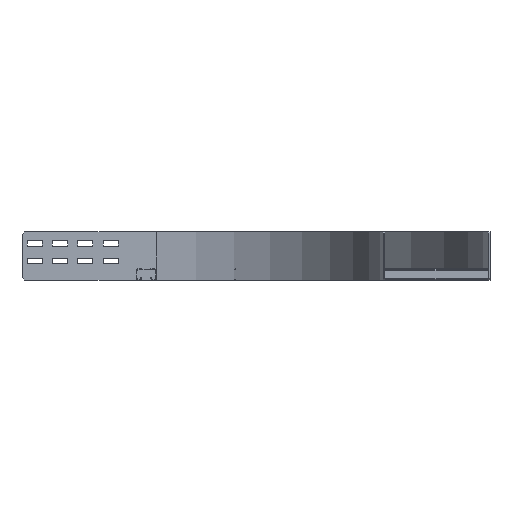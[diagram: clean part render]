
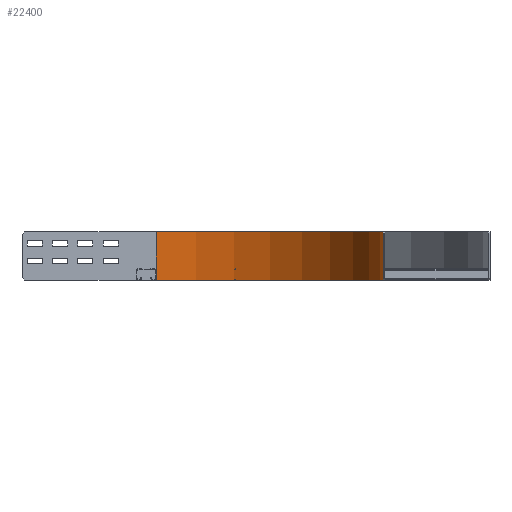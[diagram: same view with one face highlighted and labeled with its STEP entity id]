
A CAD part, front view. The second image highlights one B-rep face of the part: STEP entity #22400.
In plain terms, the highlighted cylindrical face has radius 447 mm (diameter 894 mm), a partial arc.
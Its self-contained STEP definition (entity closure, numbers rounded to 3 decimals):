
#450=CARTESIAN_POINT('',(447.,-450.,-50.));
#460=VERTEX_POINT('',#450);
#490=CARTESIAN_POINT('',(0.,-450.,-50.));
#500=DIRECTION('',(0.,0.,1.));
#510=DIRECTION('',(1.,0.,0.));
#520=AXIS2_PLACEMENT_3D('',#490,#500,#510);
#530=CIRCLE('',#520,447.);
#540=CARTESIAN_POINT('',(0.,-3.,-50.));
#550=VERTEX_POINT('',#540);
#560=EDGE_CURVE('',#460,#550,#530,.T.);
#3960=CARTESIAN_POINT('',(0.,-3.,-145.));
#3970=VERTEX_POINT('',#3960);
#4000=CARTESIAN_POINT('',(0.,-450.,-145.));
#4010=DIRECTION('',(0.,0.,1.));
#4020=DIRECTION('',(1.,0.,0.));
#4030=AXIS2_PLACEMENT_3D('',#4000,#4010,#4020);
#4040=CIRCLE('',#4030,447.);
#4050=CARTESIAN_POINT('',(447.,-450.,-145.));
#4060=VERTEX_POINT('',#4050);
#4070=EDGE_CURVE('',#4060,#3970,#4040,.T.);
#8080=CARTESIAN_POINT('',(447.,-450.,0.));
#8090=DIRECTION('',(0.,0.,1.));
#8100=VECTOR('',#8090,1.);
#8110=LINE('',#8080,#8100);
#8120=EDGE_CURVE('',#4060,#460,#8110,.T.);
#13780=CARTESIAN_POINT('',(0.,-3.,0.));
#13790=DIRECTION('',(0.,0.,1.));
#13800=VECTOR('',#13790,1.);
#13810=LINE('',#13780,#13800);
#13820=EDGE_CURVE('',#3970,#550,#13810,.T.);
#22290=CARTESIAN_POINT('',(0.,-450.,0.));
#22300=DIRECTION('',(0.,0.,1.));
#22310=DIRECTION('',(1.,0.,0.));
#22320=AXIS2_PLACEMENT_3D('',#22290,#22300,#22310);
#22330=CYLINDRICAL_SURFACE('',#22320,447.);
#22340=ORIENTED_EDGE('',*,*,#560,.T.);
#22350=ORIENTED_EDGE('',*,*,#8120,.T.);
#22360=ORIENTED_EDGE('',*,*,#4070,.F.);
#22370=ORIENTED_EDGE('',*,*,#13820,.F.);
#22380=EDGE_LOOP('',(#22370,#22360,#22350,#22340));
#22390=FACE_OUTER_BOUND('',#22380,.T.);
#22400=ADVANCED_FACE('',(#22390),#22330,.F.);
